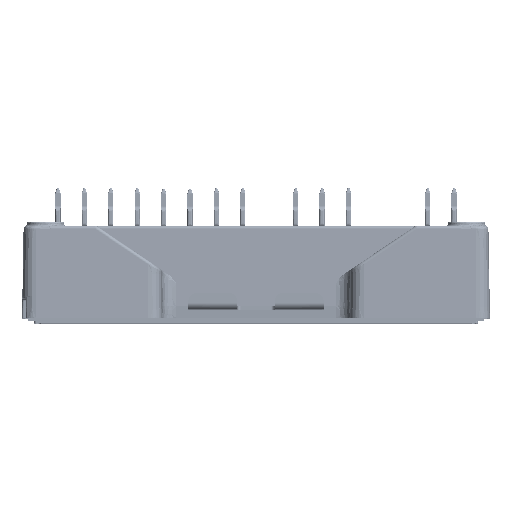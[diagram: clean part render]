
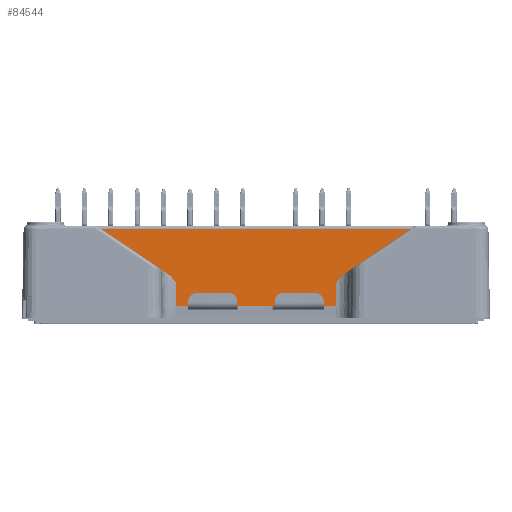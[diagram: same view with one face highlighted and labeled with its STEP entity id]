
A CAD part, top view. The second image highlights one B-rep face of the part: STEP entity #84544.
In plain terms, the highlighted planar face has unit normal (0, 0.018, 1).
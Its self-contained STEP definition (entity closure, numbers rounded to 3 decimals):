
#4751 = CARTESIAN_POINT ( 'NONE',  ( -11.35, 2.05, 20.475 ) ) ;
#5613 = EDGE_LOOP ( 'NONE', ( #106752, #39910, #92718, #71122, #153144, #85192, #36248, #66125, #27043, #116176 ) ) ;
#10409 = VERTEX_POINT ( 'NONE', #81402 ) ;
#11029 = DIRECTION ( 'NONE',  ( 0., -1., 0.017 ) ) ;
#11347 = VERTEX_POINT ( 'NONE', #23239 ) ;
#12451 = CARTESIAN_POINT ( 'NONE',  ( 10.679, 5.981, 20.407 ) ) ;
#13422 = CARTESIAN_POINT ( 'NONE',  ( -11.35, 2.05, 20.475 ) ) ;
#16281 = PLANE ( 'NONE',  #43712 ) ;
#17347 = CARTESIAN_POINT ( 'NONE',  ( 10.092, 5.41, 20.417 ) ) ;
#18836 = VERTEX_POINT ( 'NONE', #76100 ) ;
#19927 = DIRECTION ( 'NONE',  ( 0.829, -0.559, 0.01 ) ) ;
#20833 = CARTESIAN_POINT ( 'NONE',  ( -10.123, 5.449, 20.416 ) ) ;
#21695 = CARTESIAN_POINT ( 'NONE',  ( -9.65, 4.812, 20.427 ) ) ;
#23239 = CARTESIAN_POINT ( 'NONE',  ( 9.65, 2.05, 20.475 ) ) ;
#27043 = ORIENTED_EDGE ( 'NONE', *, *, #86178, .T. ) ;
#28047 = CARTESIAN_POINT ( 'NONE',  ( 10.679, 5.981, 20.407 ) ) ;
#30487 = CARTESIAN_POINT ( 'NONE',  ( 10.066, 5.378, 20.417 ) ) ;
#33942 = CARTESIAN_POINT ( 'NONE',  ( -10.203, 5.543, 20.414 ) ) ;
#34808 = CARTESIAN_POINT ( 'NONE',  ( -9.851, 5.097, 20.422 ) ) ;
#35636 = CARTESIAN_POINT ( 'NONE',  ( -18.767, 11.437, 20.311 ) ) ;
#35673 = CARTESIAN_POINT ( 'NONE',  ( -10.288, 5.639, 20.413 ) ) ;
#36248 = ORIENTED_EDGE ( 'NONE', *, *, #122873, .T. ) ;
#37096 = DIRECTION ( 'NONE',  ( 1., 0., 0. ) ) ;
#38203 = CARTESIAN_POINT ( 'NONE',  ( -11.35, 11.437, 20.311 ) ) ;
#39910 = ORIENTED_EDGE ( 'NONE', *, *, #153570, .T. ) ;
#43712 = AXIS2_PLACEMENT_3D ( 'NONE', #122805, #139361, #97473 ) ;
#44458 = EDGE_CURVE ( 'NONE', #10409, #11347, #65864, .T. ) ;
#45350 = CARTESIAN_POINT ( 'NONE',  ( 9.884, 5.139, 20.421 ) ) ;
#45948 = B_SPLINE_CURVE_WITH_KNOTS ( 'NONE', 3,
 ( #139563, #86333, #45350, #111632, #30487, #17347, #70657, #123882, #57553, #110782, #164044, #164911, #151823 ),
 .UNSPECIFIED., .F., .F.,
 ( 4, 1, 1, 1, 1, 1, 2, 2, 4 ),
 ( 0., 0.25, 0.375, 0.437, 0.469, 0.484, 0.492, 0.5, 1. ),
 .UNSPECIFIED. ) ;
#47811 = LINE ( 'NONE', #101008, #166985 ) ;
#49518 = VERTEX_POINT ( 'NONE', #152983 ) ;
#50615 = VERTEX_POINT ( 'NONE', #147848 ) ;
#53514 = DIRECTION ( 'NONE',  ( 0.829, 0.559, -0.01 ) ) ;
#57413 = B_SPLINE_CURVE_WITH_KNOTS ( 'NONE', 3,
 ( #127355, #76700, #88063, #35673, #33942, #129916, #87205, #140426, #20833, #74127, #101145, #34808, #21695 ),
 .UNSPECIFIED., .F., .F.,
 ( 4, 1, 1, 1, 1, 1, 2, 2, 4 ),
 ( 0., 0.25, 0.375, 0.438, 0.469, 0.484, 0.492, 0.5, 1. ),
 .UNSPECIFIED. ) ;
#57553 = CARTESIAN_POINT ( 'NONE',  ( 10.113, 5.437, 20.416 ) ) ;
#58463 = VECTOR ( 'NONE', #53514, 1000. ) ;
#60865 = VERTEX_POINT ( 'NONE', #28047 ) ;
#63461 = DIRECTION ( 'NONE',  ( 0., 1., -0.017 ) ) ;
#63560 = LINE ( 'NONE', #35636, #167479 ) ;
#64338 = LINE ( 'NONE', #90536, #129200 ) ;
#65864 = LINE ( 'NONE', #13422, #94876 ) ;
#66125 = ORIENTED_EDGE ( 'NONE', *, *, #105453, .T. ) ;
#70657 = CARTESIAN_POINT ( 'NONE',  ( 10.105, 5.426, 20.416 ) ) ;
#71122 = ORIENTED_EDGE ( 'NONE', *, *, #148312, .T. ) ;
#71185 = LINE ( 'NONE', #4751, #87438 ) ;
#74127 = CARTESIAN_POINT ( 'NONE',  ( -10.119, 5.443, 20.416 ) ) ;
#76100 = CARTESIAN_POINT ( 'NONE',  ( -18.767, 11.437, 20.311 ) ) ;
#76700 = CARTESIAN_POINT ( 'NONE',  ( -10.591, 5.922, 20.408 ) ) ;
#77586 = CARTESIAN_POINT ( 'NONE',  ( -11.35, 2.05, 20.475 ) ) ;
#81393 = CARTESIAN_POINT ( 'NONE',  ( -10.679, 5.981, 20.407 ) ) ;
#81402 = CARTESIAN_POINT ( 'NONE',  ( 8.2, 2.05, 20.475 ) ) ;
#84544 = ADVANCED_FACE ( 'NONE', ( #86129 ), #16281, .T. ) ;
#85192 = ORIENTED_EDGE ( 'NONE', *, *, #44458, .T. ) ;
#86129 = FACE_OUTER_BOUND ( 'NONE', #5613, .T. ) ;
#86178 = EDGE_CURVE ( 'NONE', #60865, #120817, #134652, .T. ) ;
#86333 = CARTESIAN_POINT ( 'NONE',  ( 9.75, 4.954, 20.425 ) ) ;
#87205 = CARTESIAN_POINT ( 'NONE',  ( -10.139, 5.467, 20.416 ) ) ;
#87438 = VECTOR ( 'NONE', #122679, 1000. ) ;
#88063 = CARTESIAN_POINT ( 'NONE',  ( -10.454, 5.81, 20.41 ) ) ;
#90536 = CARTESIAN_POINT ( 'NONE',  ( -9.65, 499000., -8689.566 ) ) ;
#92666 = VECTOR ( 'NONE', #101943, 1000. ) ;
#92718 = ORIENTED_EDGE ( 'NONE', *, *, #135308, .T. ) ;
#94876 = VECTOR ( 'NONE', #37096, 1000. ) ;
#96493 = EDGE_CURVE ( 'NONE', #50615, #10409, #71185, .T. ) ;
#97473 = DIRECTION ( 'NONE',  ( 0., -1., 0.017 ) ) ;
#97497 = CARTESIAN_POINT ( 'NONE',  ( 18.767, 11.437, 20.311 ) ) ;
#101008 = CARTESIAN_POINT ( 'NONE',  ( 9.65, 499000., -8689.566 ) ) ;
#101145 = CARTESIAN_POINT ( 'NONE',  ( -10.007, 5.307, 20.418 ) ) ;
#101171 = LINE ( 'NONE', #77586, #128576 ) ;
#101804 = CARTESIAN_POINT ( 'NONE',  ( -9.65, 4.812, 20.427 ) ) ;
#101943 = DIRECTION ( 'NONE',  ( -1., 0., 0. ) ) ;
#102546 = VERTEX_POINT ( 'NONE', #81393 ) ;
#105453 = EDGE_CURVE ( 'NONE', #106702, #60865, #45948, .T. ) ;
#106702 = VERTEX_POINT ( 'NONE', #108237 ) ;
#106752 = ORIENTED_EDGE ( 'NONE', *, *, #146180, .T. ) ;
#108237 = CARTESIAN_POINT ( 'NONE',  ( 9.65, 4.812, 20.427 ) ) ;
#110782 = CARTESIAN_POINT ( 'NONE',  ( 10.114, 5.437, 20.416 ) ) ;
#111632 = CARTESIAN_POINT ( 'NONE',  ( 10.01, 5.306, 20.418 ) ) ;
#116176 = ORIENTED_EDGE ( 'NONE', *, *, #156819, .T. ) ;
#120817 = VERTEX_POINT ( 'NONE', #97497 ) ;
#122679 = DIRECTION ( 'NONE',  ( 1., 0., 0. ) ) ;
#122805 = CARTESIAN_POINT ( 'NONE',  ( -11.35, 0.63, 20.5 ) ) ;
#122873 = EDGE_CURVE ( 'NONE', #11347, #106702, #47811, .T. ) ;
#123882 = CARTESIAN_POINT ( 'NONE',  ( 10.11, 5.432, 20.416 ) ) ;
#127355 = CARTESIAN_POINT ( 'NONE',  ( -10.679, 5.981, 20.407 ) ) ;
#128576 = VECTOR ( 'NONE', #143038, 1000. ) ;
#129200 = VECTOR ( 'NONE', #11029, 1000. ) ;
#129916 = CARTESIAN_POINT ( 'NONE',  ( -10.16, 5.493, 20.415 ) ) ;
#134652 = LINE ( 'NONE', #12451, #58463 ) ;
#135308 = EDGE_CURVE ( 'NONE', #169725, #49518, #64338, .T. ) ;
#139361 = DIRECTION ( 'NONE',  ( 0., 0.017, 1. ) ) ;
#139563 = CARTESIAN_POINT ( 'NONE',  ( 9.65, 4.812, 20.427 ) ) ;
#140426 = CARTESIAN_POINT ( 'NONE',  ( -10.129, 5.456, 20.416 ) ) ;
#143038 = DIRECTION ( 'NONE',  ( 1., 0., 0. ) ) ;
#146180 = EDGE_CURVE ( 'NONE', #18836, #102546, #63560, .T. ) ;
#147848 = CARTESIAN_POINT ( 'NONE',  ( -8.2, 2.05, 20.475 ) ) ;
#148312 = EDGE_CURVE ( 'NONE', #49518, #50615, #101171, .T. ) ;
#151823 = CARTESIAN_POINT ( 'NONE',  ( 10.679, 5.981, 20.407 ) ) ;
#152983 = CARTESIAN_POINT ( 'NONE',  ( -9.65, 2.05, 20.475 ) ) ;
#153144 = ORIENTED_EDGE ( 'NONE', *, *, #96493, .T. ) ;
#153570 = EDGE_CURVE ( 'NONE', #102546, #169725, #57413, .T. ) ;
#156819 = EDGE_CURVE ( 'NONE', #120817, #18836, #170835, .T. ) ;
#164044 = CARTESIAN_POINT ( 'NONE',  ( 10.315, 5.682, 20.412 ) ) ;
#164911 = CARTESIAN_POINT ( 'NONE',  ( 10.502, 5.862, 20.409 ) ) ;
#166985 = VECTOR ( 'NONE', #63461, 1000. ) ;
#167479 = VECTOR ( 'NONE', #19927, 1000. ) ;
#169725 = VERTEX_POINT ( 'NONE', #101804 ) ;
#170835 = LINE ( 'NONE', #38203, #92666 ) ;
